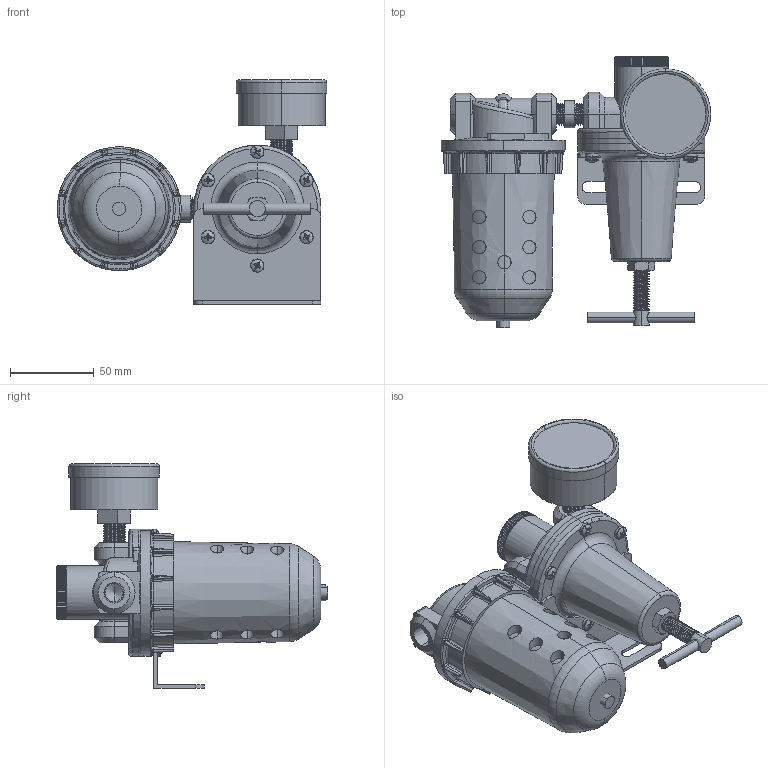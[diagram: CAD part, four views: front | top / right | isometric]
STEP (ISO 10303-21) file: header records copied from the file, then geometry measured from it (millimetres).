
FILE_DESCRIPTION (( 'STEP AP203' ), '1' );
FILE_NAME ('U628#-02#YB#.STEP', '2016-01-14T17:28:41', ( '' ), ( '' ), 'SwSTEP 2.0', 'SolidWorks 2014', '' );
FILE_SCHEMA (( 'CONFIG_CONTROL_DESIGN' ));
Length unit declared in the file: millimetre
Products named in the file (19): ISO 7045 - M4 x 16; 50-P-AD=1-4PT.SLDPRT; KW15Y57; 50-P-AD=1-4PT-2; R119-02-5; L606-W-06-5; R119-02; R119-02-4; U628#-02#YB#; 1-4-圓; R119-02-7; F602-02-2; F602-02-1; R119-02-6; R119-02-3; R119-02-2; R119-02-1; F602-02#YB#; 50-P-AD=1-4PT-1
Assembly tree (23 placements, depth 4):
  U628#-02#YB#
    F602-02#YB#
      F602-02-1
      F602-02-2
      L606-W-06-5
    R119-02
      R119-02-1
      R119-02-2
      R119-02-3
      R119-02-4
      ISO 7045 - M4 x 16  x6
      R119-02-5
      R119-02-6
      R119-02-7
      KW15Y57
      50-P-AD=1-4PT.SLDPRT
        50-P-AD=1-4PT-1
        50-P-AD=1-4PT-2
    1-4-圓
Bounding box: 161 x 162 x 134 mm (x, y, z)
Volume: 630539.2 mm3; surface area: 121487.5 mm2
Topology: 20 solids, 20 shells, 1212 faces, 2962 edges, 1772 vertices
Faces by surface type: plane 407, cylinder 312, cone 275, bspline 106, torus 70, sphere 42
Entity records: 45943 total; most frequent: CARTESIAN_POINT 21339, ORIENTED_EDGE 5008, DIRECTION 4353, EDGE_CURVE 2504, AXIS2_PLACEMENT_3D 1786, VERTEX_POINT 1517, EDGE_LOOP 1093, ADVANCED_FACE 1042
